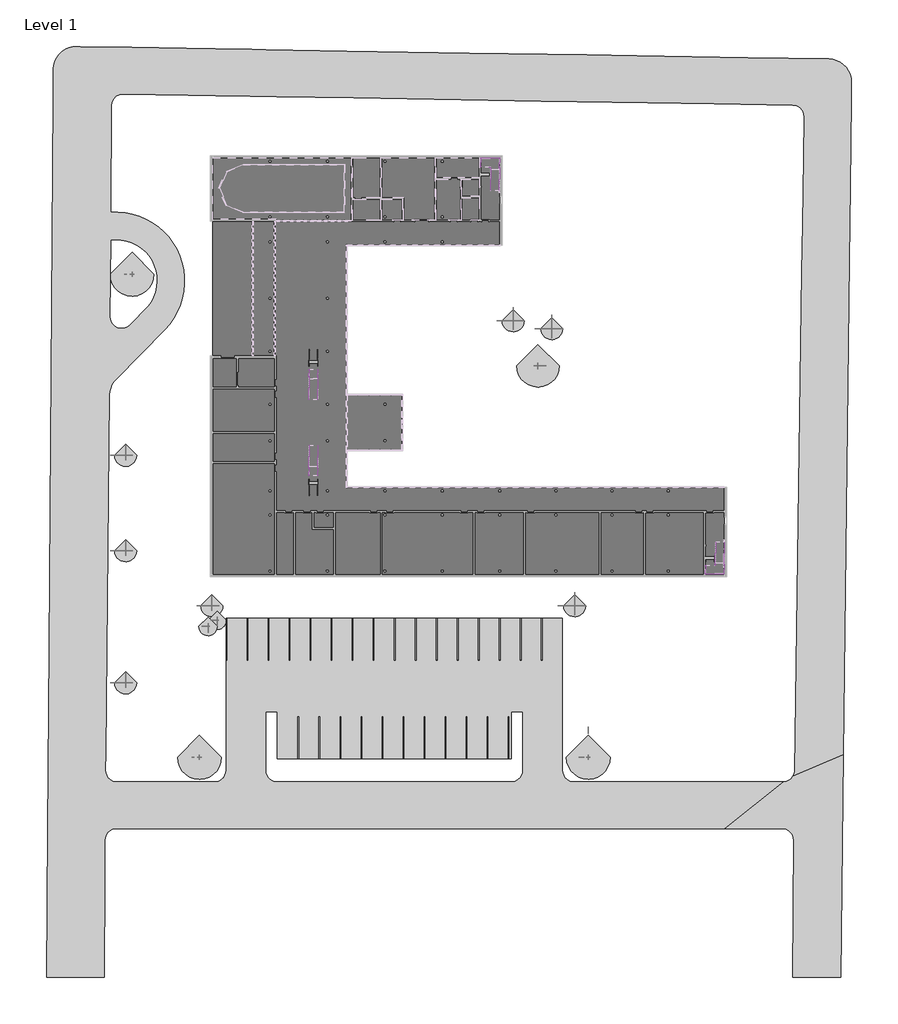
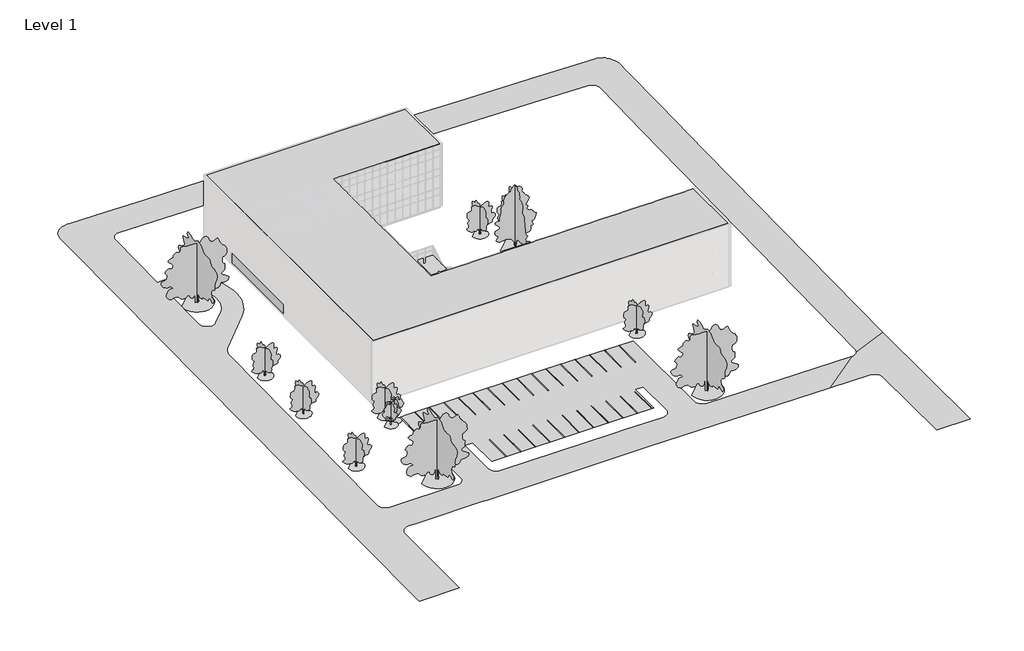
# One storey, part 27 of 27: 30 proxies, 28 members, 13 geographic elements.
"""IFC4 building model written with IfcOpenShell, lengths in millimetres."""

from ifc_helpers import new_model, si_unit, frame, origin, origin_with_axes, place, context, project, spatial, polyline, outline, extrude, faceted_brep, triangles, transform, mapped, element, save
from components import m_parking_space_5480_x_2740mm_90_deg_a793e569, m_rpc_tree_deciduous_american_beech_6_0_meters_be49fed4, m_rpc_tree_deciduous_japanese_cherry_4_5_meters_7aaeb41d, m_rpc_tree_deciduous_lombardy_poplar_12_2_meters_1b309f58, m_rpc_tree_deciduous_scarlet_oak_12_5_meters_13b38d7d

model = new_model("IFC4")

# Units and contexts
model_context = context("Model", 3, world=origin())
ifc_project = project(units=[si_unit("LENGTHUNIT", "METRE", prefix="MILLI")], contexts=[model_context])

# Site, building, storey
site = spatial("IfcSite", under=ifc_project)
building = spatial("IfcBuilding", under=site)
storey = spatial("IfcBuildingStorey", under=building, Name="Level 1", Elevation=0.0)

# Proxies
placement = place(None, origin())
element("IfcBuildingElementProxy", 1, Name="Building Element Proxy", at=placement, inside=storey, context=model_context, shape_type="Tessellation", body=[
    triangles([(70309.7548828, 43704.7137085, -503.1527547), (59746.7205688, 43879.5355957, -409.5406998), (45204.5570435, 44120.2092773, -278.9620967), (38757.531958, 44226.9097412, -221.9724431), (23364.4389771, 44481.6709351, -156.1477909), (7458.42556, 44744.915332, 0.0), (-3099.0088051, 44919.6442017, 0.0), (-4909.0805878, 44949.6005127, 0.0), (-9691.7927261, 45028.7538208, 0.0), (-13464.786264, 45091.2011719, 0.0), (-20574.5627563, 45208.8684082, 0.0), (-27271.6376953, 45319.7081543, 0.0), (-27739.5370422, 45327.4518677, 0.0), (-28264.1631592, 45290.0215942, 0.0), (-28774.1901672, 45161.5457153, 0.0), (-29253.9399536, 44945.9681763, 0.0), (-29688.6669067, 44649.9211304, 0.0), (-30065.011377, 44282.4970459, 0.0), (-30371.4019775, 43854.9975586, 0.0), (-30598.4230042, 43380.5567505, 0.0), (-30739.095813, 42873.755127, 0.0), (-30774.2820374, 42505.3404053, 0.0), (-30789.0997375, 42350.1824341, 0.0), (-30818.2607483, 38430.6216797, 0.0), (-31349.0702087, -32913.8142334, 0.0), (-31410.3827454, -41154.7298218, 0.0), (-31466.9560364, -48758.3494263, 0.0), (-31526.3942688, -56747.4710815, 0.0), (-31669.8878357, -76033.9217651, 0.0), (-24160.2671448, -76033.9217651, 0.0), (-24090.7853394, -62944.5904907, 0.0), (-24065.2287598, -58130.4099243, 0.0), (-24026.1078918, -57797.9371948, 0.0), (-23964.4744446, -57624.1291992, 0.0), (-23914.2263489, -57482.4262207, 0.0), (-23735.1558838, -57199.58302, 0.0), (-23497.8145569, -56963.4997559, 0.0), (-23214.0249023, -56785.9338501, 0.0), (-22897.9232666, -56675.7266235, 0.0), (-22565.2505493, -56638.3707642, 0.0), (-21189.1601257, -56638.3707642, 0.0), (-18714.6158203, -56638.3707642, 0.0), (-9198.8908356, -56638.3707642, 0.0), (-8594.8358459, -56638.3707642, 0.0), (-7828.2291504, -56638.3707642, 0.0), (21010.0826843, -56638.3707642, 0.0), (22698.8121643, -56638.3707642, 0.0), (56711.1151611, -56638.3707642, -334.7282604), (64236.9255615, -56638.3707642, -334.7282604), (64572.5050781, -56676.3916992, -334.0721231), (64891.0763306, -56788.5243896, -332.1369578), (65176.4821655, -56969.0808105, -329.020869), (65414.2630005, -57208.917334, -324.8818048), (65592.3591064, -57495.8672607, -319.9295998), (65701.7431274, -57815.3872925, -314.4152925), (65736.8712158, -58151.2830688, -308.6184443), (65582.9224731, -76033.9217651, 0.0), (71858.6882446, -76033.9217651, 0.0), (72207.6111328, -46972.9328247, -501.5343578), (72914.4470581, 11897.6051788, -595.5837407), (72981.5592407, 17486.9884277, -555.8220689), (73096.2220093, 27037.1194519, -545.4053719), (73231.3532959, 38291.881311, -535.7858282), (73259.8957397, 40669.1083008, -533.0508934), (73220.8237061, 41189.0672607, -532.0520082), (73092.3059692, 41694.4085083, -530.2807137), (72878.2306641, 42169.863208, -527.790495), (72585.0625122, 42601.0694458, -524.6566383), (72221.661438, 42975.0001099, -520.9737236), (71799.0035156, 43280.3582153, -516.8530812), (71329.8554077, 43507.9210693, -512.4191949), (70828.3883423, 43650.810022, -507.805959), (65844.943689, -49064.5493408, -435.8225258), (65789.1005859, -49448.423584, -434.7050795), (65636.6912842, -49805.1366943, -432.6774053), (65397.8965576, -50110.8436157, -429.875069), (65088.6968262, -50345.0897827, -426.4855594), (64729.7652466, -50492.2110352, -422.7355339), (64345.1050049, -50542.3707642, -418.8757768), (37077.7972778, -50542.3707642, -150.5276125), (36744.0176514, -50504.7637573, -147.2983764), (36426.9718872, -50393.8263428, -144.3423523), (36142.5636658, -50215.1163208, -141.8077414), (35905.0502563, -49977.6052368, -139.8216707), (35726.3448853, -49693.1946899, -138.4837074), (35615.4051453, -49376.1535767, -137.8609529), (35577.7981384, -49042.3692993, -137.9846372), (35577.7981384, -29206.3707642, -167.3300298), (18575.1115448, -29206.3707642, 0.0), (14497.9359924, -29206.3707642, 0.0), (-7039.9656372, -29206.3707642, 0.0), (-8262.2014984, -29206.3707642, 0.0), (-8262.2014984, -49042.3692993, 0.0), (-8299.809668, -49376.1535767, 0.0), (-8410.7482452, -49693.1946899, 0.0), (-8589.4541977, -49977.6052368, 0.0), (-8665.8786026, -50054.028479, 0.0), (-8826.9670258, -50215.1163208, 0.0), (-9111.3758286, -50393.8263428, 0.0), (-9428.4198486, -50504.7637573, 0.0), (-9455.9652603, -50507.8658936, 0.0), (-9762.2018005, -50542.3707642, 0.0), (-21961.0269653, -50542.3707642, 0.0), (-22489.1714722, -50542.3707642, 0.0), (-22825.1137573, -50504.2661133, 0.0), (-23143.9896423, -50391.896228, 0.0), (-23429.5977905, -50210.9584351, 0.0), (-23667.4274597, -49970.6568237, 0.0), (-23845.3979919, -49683.1953003, 0.0), (-23954.4657532, -49363.1729736, 0.0), (-23989.0915466, -49026.8539673, 0.0), (-23965.8278503, -46777.8191528, 0.0), (-23482.8736084, -89.4265001, 0.0), (-23435.7322998, 363.1888415, 0.0), (-23321.7694885, 803.7518847, 0.0), (-23143.5268799, 1222.4547432, 0.0), (-22904.9670227, 1609.9761475, 0.0), (-22611.4058716, 1957.6892258, 0.0), (-16262.7991974, 8428.9988754, 0.0), (-15636.7711304, 9137.9788559, 0.0), (-15088.4732025, 9908.6498383, 0.0), (-14623.9422546, 10732.5286194, 0.0), (-14248.2919281, 11600.5442413, 0.0), (-13965.658017, 12503.1414734, 0.0), (-13779.1507965, 13430.3848755, 0.0), (-13690.8247925, 14372.0646057, 0.0), (-13701.6508759, 15317.8173431, 0.0), (-13811.5116119, 16257.2297699, 0.0), (-14019.1954468, 17179.959494, 0.0), (-14322.4187988, 18075.8513214, 0.0), (-14717.8411743, 18935.0395752, 0.0), (-15201.1093506, 19748.0690186, 0.0), (-15766.9062103, 20505.9855469, 0.0), (-16409.0007385, 21200.4478088, 0.0), (-17120.3235992, 21823.812085, 0.0), (-17893.0473633, 22369.2160034, 0.0), (-18718.662085, 22830.6506287, 0.0), (-19588.0811096, 23203.0418518, 0.0), (-20491.7329285, 23482.2875977, 0.0), (-21419.6693115, 23665.3136353, 0.0), (-22361.6746033, 23750.1084595, 0.0), (-23307.3796692, 23735.7325928, 0.0), (-23203.9185425, 37641.6768127, 0.0), (-23163.3768311, 37977.0679688, 0.0), (-23048.8094055, 38294.8811279, 0.0), (-22866.0228882, 38578.9940186, 0.0), (-22624.2911316, 38814.9958923, 0.0), (-22335.8738525, 38990.915387, 0.0), (-22015.4050415, 39097.8274658, 0.0), (-21679.1371948, 39130.3092041, 0.0), (-13208.9460663, 38990.1293884, 0.0), (-9625.997905, 38930.8306824, 0.0), (-5084.1908295, 38855.6655029, 0.0), (-1645.9585442, 38798.7619995, 0.0), (8377.2142456, 38632.8791016, 0.0), (32875.1398499, 38227.4364075, -240.4937689), (46729.6360474, 37998.1434265, -299.7389899), (55435.3325684, 37854.0638489, -376.6945579), (65630.1847046, 37685.3392639, -468.2372987), (65962.9318359, 37642.302356, -471.261242), (66277.7870361, 37526.3815247, -474.1950019), (66559.0024292, 37343.376416, -476.8917123), (66792.4998047, 37102.4422852, -479.216534), (66966.6054565, 36815.6318848, -481.0531225), (67072.6082886, 36497.2978271, -482.3095865), (67105.1969971, 36163.3670471, -482.9230665), (67025.2297852, 30755.4808594, -487.4104743), (66899.3025879, 22239.1774292, -496.4906977), (66805.7827148, 15914.661145, -541.4088498), (-1581.9995121, -47494.3707642, 0.0), (18839.3663452, -47494.3707642, 0.0), (21324.2449036, -47494.3707642, 0.0), (28897.5965881, -47494.3707642, -74.5322966), (28897.5965881, -41398.3707642, -83.5507232), (30421.5965881, -41398.3707642, -98.5489992), (30421.5965881, -49042.3692993, -87.2404598), (30383.9895813, -49376.1535767, -86.3765409), (30273.0498413, -49693.1946899, -84.8157168), (30094.3444702, -49977.6052368, -82.6362441), (29856.8310608, -50215.1163208, -79.9474184), (29572.4228394, -50393.8263428, -76.8840607), (29255.3770752, -50504.7637573, -73.5997817), (28921.5974487, -50542.3707642, -70.2592743), (21782.4332153, -50542.3707642, 0.0), (19562.9384583, -50542.3707642, 0.0), (-1605.9993553, -50542.3707642, 0.0), (-1939.7807259, -50504.7637573, 0.0), (-2256.8250366, -50393.8263428, 0.0), (-2541.2341301, -50215.1163208, 0.0), (-2778.7466675, -49977.6052368, 0.0), (-2957.4526199, -49693.1946899, 0.0), (-3068.3911972, -49376.1535767, 0.0), (-3105.9993668, -49042.3692993, 0.0), (-3105.9993668, -41398.3707642, 0.0), (-1581.9995121, -41398.3707642, 0.0), (-23329.5411072, 20062.4428528, 0.0), (-22621.2355042, 20122.8182373, 0.0), (-21911.2137268, 20088.0784973, 0.0), (-21212.1866272, 19958.8398743, 0.0), (-20536.6766968, 19737.4208313, 0.0), (-19896.7808716, 19427.7839172, 0.0), (-19303.9589172, 19035.4776306, 0.0), (-18768.829953, 18567.527124, 0.0), (-18300.9771149, 18032.3132813, 0.0), (-17908.7801239, 17439.420401, 0.0), (-17599.2606445, 16799.4687653, 0.0), (-17377.9648499, 16123.9181396, 0.0), (-17248.854126, 15424.8677856, 0.0), (-17214.2422852, 14714.8378693, 0.0), (-17274.7478943, 14006.5438934, 0.0), (-17429.2872986, 13312.6722931, 0.0), (-17675.0943878, 12645.649054, 0.0), (-18007.7659424, 12017.4211212, 0.0), (-18421.3430237, 11439.2389709, 0.0), (-20791.7983337, 9022.9684341, 0.0), (-21073.2044128, 8797.119429, 0.0), (-21399.8193604, 8643.7590225, 0.0), (-21753.3349915, 8571.483783, 0.0), (-22113.9339111, 8584.3452072, 0.0), (-22461.4010742, 8681.6229904, 0.0), (-22776.2609253, 8857.8639771, 0.0), (-23040.8610535, 9103.1879562, 0.0), (-23240.3698059, 9403.8428604, 0.0), (-23363.6018188, 9742.9750671, 0.0), (-23403.6505371, 10101.5741089, 0.0)], [[29, 30, 31], [29, 31, 28], [28, 32, 33], [32, 28, 31], [33, 34, 28], [28, 34, 35], [36, 37, 108], [36, 108, 28], [108, 37, 107], [38, 106, 107], [106, 38, 39], [37, 38, 107], [36, 28, 35], [28, 108, 27], [110, 111, 27], [109, 110, 27], [26, 27, 112], [25, 112, 113], [112, 25, 26], [27, 111, 112], [109, 27, 108], [114, 115, 224], [113, 114, 225], [225, 114, 224], [223, 116, 117], [223, 224, 115], [116, 223, 115], [25, 113, 24], [24, 113, 225], [105, 39, 40], [104, 40, 103], [105, 40, 104], [117, 118, 222], [118, 219, 220], [221, 118, 220], [223, 117, 222], [103, 41, 42], [41, 103, 40], [219, 118, 218], [216, 118, 119], [217, 218, 118], [118, 216, 217], [216, 119, 215], [212, 213, 122], [214, 121, 213], [119, 214, 215], [221, 222, 118], [121, 122, 213], [122, 123, 212], [211, 123, 124], [211, 212, 123], [211, 124, 210], [210, 124, 125], [121, 214, 120], [120, 214, 119], [105, 106, 39], [142, 143, 24], [196, 142, 24], [24, 144, 145], [144, 24, 143], [24, 145, 23], [146, 23, 145], [142, 196, 197], [196, 24, 225], [140, 198, 139], [197, 198, 141], [141, 198, 140], [12, 146, 147], [141, 142, 197], [12, 147, 148], [22, 20, 21], [16, 17, 22], [20, 22, 19], [18, 19, 22], [17, 18, 22], [22, 23, 13], [23, 12, 13], [23, 146, 12], [149, 11, 148], [16, 22, 15], [22, 14, 15], [13, 14, 22], [149, 150, 11], [12, 148, 11], [139, 198, 199], [207, 208, 128], [133, 203, 204], [205, 206, 131], [132, 204, 205], [207, 129, 206], [209, 126, 127], [126, 209, 210], [127, 128, 208], [206, 130, 131], [130, 206, 129], [129, 207, 128], [127, 208, 209], [210, 125, 126], [131, 132, 205], [137, 201, 136], [200, 201, 137], [11, 150, 151], [139, 199, 138], [200, 137, 138], [201, 202, 136], [199, 200, 138], [203, 134, 202], [134, 135, 202], [136, 202, 135], [10, 151, 9], [10, 11, 151], [203, 133, 134], [204, 132, 133], [103, 42, 102], [100, 43, 44], [99, 100, 44], [102, 43, 101], [188, 45, 187], [100, 101, 43], [44, 45, 99], [45, 186, 187], [43, 102, 42], [185, 186, 46], [46, 186, 45], [184, 46, 47], [185, 46, 184], [182, 183, 47], [47, 183, 184], [182, 82, 181], [99, 45, 98], [98, 45, 97], [95, 96, 190], [93, 94, 192], [95, 191, 94], [97, 190, 96], [45, 189, 190], [45, 188, 189], [191, 192, 94], [191, 95, 190], [193, 93, 192], [180, 181, 83], [190, 97, 45], [81, 182, 47], [79, 50, 78], [49, 50, 79], [80, 47, 48], [48, 79, 80], [79, 48, 49], [81, 47, 80], [78, 50, 51], [57, 58, 56], [55, 59, 54], [77, 51, 52], [59, 75, 53], [76, 52, 53], [54, 59, 53], [182, 81, 82], [55, 56, 59], [180, 84, 179], [180, 83, 84], [179, 84, 85], [177, 178, 86], [85, 86, 178], [178, 179, 85], [87, 177, 86], [77, 78, 51], [75, 76, 53], [59, 73, 74], [74, 75, 59], [77, 52, 76], [82, 83, 181], [56, 58, 59], [170, 171, 195], [91, 92, 194], [194, 195, 91], [93, 194, 92], [195, 90, 91], [90, 195, 171], [194, 93, 193], [175, 176, 87], [172, 174, 89], [172, 173, 174], [175, 88, 174], [88, 175, 87], [172, 89, 171], [177, 87, 176], [89, 174, 88], [8, 152, 153], [7, 153, 154], [8, 9, 152], [6, 7, 154], [8, 153, 7], [154, 155, 6], [9, 151, 152], [89, 90, 171], [155, 5, 6], [155, 156, 5], [5, 156, 4], [4, 157, 3], [4, 156, 157], [168, 169, 61], [160, 161, 1], [162, 163, 64], [161, 162, 1], [163, 164, 63], [62, 168, 61], [61, 169, 60], [165, 166, 63], [167, 63, 166], [168, 62, 167], [164, 165, 63], [63, 167, 62], [3, 158, 2], [2, 158, 159], [2, 159, 1], [66, 71, 72], [72, 1, 65], [159, 160, 1], [158, 3, 157], [66, 72, 65], [64, 65, 1], [66, 67, 71], [69, 70, 68], [67, 68, 70], [71, 67, 70], [162, 64, 1], [163, 63, 64], [60, 169, 73], [59, 60, 73]], closed=False),
])
m_parking_space_5480_x_2740mm_90_deg_shape = m_parking_space_5480_x_2740mm_90_deg_a793e569(model_context)
element("IfcBuildingElementProxy", 2, Name="M_Parking Space : 5480 x 2740mm - 90 deg", ObjectType="M_Parking Space : 5480 x 2740mm - 90 deg", at=placement, inside=storey, context=model_context, shape_type="MappedRepresentation", body=[
    mapped(m_parking_space_5480_x_2740mm_90_deg_shape, transform((-8211.3704002, -29206.3707642, 0.7803686), x_axis=(1.0, 0.0, 0.0), y_axis=(0.0, 1.0, 0.0), z_axis=(0.0, 0.0, 1.0))),
])
element("IfcBuildingElementProxy", 3, Name="M_Parking Space : 5480 x 2740mm - 90 deg", ObjectType="M_Parking Space : 5480 x 2740mm - 90 deg", at=placement, inside=storey, context=model_context, shape_type="MappedRepresentation", body=[
    mapped(m_parking_space_5480_x_2740mm_90_deg_shape, transform((-5471.4012928, -29206.3707642, 0.7803686), x_axis=(1.0, 0.0, 0.0), y_axis=(0.0, 1.0, 0.0), z_axis=(0.0, 0.0, 1.0))),
])
element("IfcBuildingElementProxy", 4, Name="M_Parking Space : 5480 x 2740mm - 90 deg", ObjectType="M_Parking Space : 5480 x 2740mm - 90 deg", at=placement, inside=storey, context=model_context, shape_type="MappedRepresentation", body=[
    mapped(m_parking_space_5480_x_2740mm_90_deg_shape, transform((-2731.4321855, -29206.3707642, 0.7803686), x_axis=(1.0, 0.0, 0.0), y_axis=(0.0, 1.0, 0.0), z_axis=(0.0, 0.0, 1.0))),
])
element("IfcBuildingElementProxy", 5, Name="M_Parking Space : 5480 x 2740mm - 90 deg", ObjectType="M_Parking Space : 5480 x 2740mm - 90 deg", at=placement, inside=storey, context=model_context, shape_type="MappedRepresentation", body=[
    mapped(m_parking_space_5480_x_2740mm_90_deg_shape, transform((8.5369219, -29206.3707642, 0.7803686), x_axis=(1.0, 0.0, 0.0), y_axis=(0.0, 1.0, 0.0), z_axis=(0.0, 0.0, 1.0))),
])
element("IfcBuildingElementProxy", 6, Name="M_Parking Space : 5480 x 2740mm - 90 deg", ObjectType="M_Parking Space : 5480 x 2740mm - 90 deg", at=placement, inside=storey, context=model_context, shape_type="MappedRepresentation", body=[
    mapped(m_parking_space_5480_x_2740mm_90_deg_shape, transform((2748.5060292, -29206.3707642, 0.7803686), x_axis=(1.0, 0.0, 0.0), y_axis=(0.0, 1.0, 0.0), z_axis=(0.0, 0.0, 1.0))),
])
element("IfcBuildingElementProxy", 7, Name="M_Parking Space : 5480 x 2740mm - 90 deg", ObjectType="M_Parking Space : 5480 x 2740mm - 90 deg", at=placement, inside=storey, context=model_context, shape_type="MappedRepresentation", body=[
    mapped(m_parking_space_5480_x_2740mm_90_deg_shape, transform((5488.4751366, -29206.3707642, 0.7803686), x_axis=(1.0, 0.0, 0.0), y_axis=(0.0, 1.0, 0.0), z_axis=(0.0, 0.0, 1.0))),
])
element("IfcBuildingElementProxy", 8, Name="M_Parking Space : 5480 x 2740mm - 90 deg", ObjectType="M_Parking Space : 5480 x 2740mm - 90 deg", at=placement, inside=storey, context=model_context, shape_type="MappedRepresentation", body=[
    mapped(m_parking_space_5480_x_2740mm_90_deg_shape, transform((8228.4442439, -29206.3707642, 0.7803686), x_axis=(1.0, 0.0, 0.0), y_axis=(0.0, 1.0, 0.0), z_axis=(0.0, 0.0, 1.0))),
])
element("IfcBuildingElementProxy", 9, Name="M_Parking Space : 5480 x 2740mm - 90 deg", ObjectType="M_Parking Space : 5480 x 2740mm - 90 deg", at=placement, inside=storey, context=model_context, shape_type="MappedRepresentation", body=[
    mapped(m_parking_space_5480_x_2740mm_90_deg_shape, transform((10968.4133512, -29206.3707642, 0.7803686), x_axis=(1.0, 0.0, 0.0), y_axis=(0.0, 1.0, 0.0), z_axis=(0.0, 0.0, 1.0))),
])
element("IfcBuildingElementProxy", 10, Name="M_Parking Space : 5480 x 2740mm - 90 deg", ObjectType="M_Parking Space : 5480 x 2740mm - 90 deg", at=placement, inside=storey, context=model_context, shape_type="MappedRepresentation", body=[
    mapped(m_parking_space_5480_x_2740mm_90_deg_shape, transform((13708.3824586, -29206.3707642, 0.7803686), x_axis=(1.0, 0.0, 0.0), y_axis=(0.0, 1.0, 0.0), z_axis=(0.0, 0.0, 1.0))),
])
element("IfcBuildingElementProxy", 11, Name="M_Parking Space : 5480 x 2740mm - 90 deg", ObjectType="M_Parking Space : 5480 x 2740mm - 90 deg", at=placement, inside=storey, context=model_context, shape_type="MappedRepresentation", body=[
    mapped(m_parking_space_5480_x_2740mm_90_deg_shape, transform((16448.3515659, -29206.3707642, 0.7254434), x_axis=(1.0, 0.0, 0.0), y_axis=(0.0, 1.0, 0.0), z_axis=(0.0, 0.0, 1.0))),
])
element("IfcBuildingElementProxy", 12, Name="M_Parking Space : 5480 x 2740mm - 90 deg", ObjectType="M_Parking Space : 5480 x 2740mm - 90 deg", at=placement, inside=storey, context=model_context, shape_type="MappedRepresentation", body=[
    mapped(m_parking_space_5480_x_2740mm_90_deg_shape, transform((19188.3206733, -29206.3707642, -5.2310848), x_axis=(0.9999560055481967, 0.0, -0.009380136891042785), y_axis=(-1.1675017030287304e-05, 0.9999992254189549, -0.0012445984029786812), z_axis=(0.009380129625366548, 0.0012446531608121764, 0.9999552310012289))),
])
element("IfcBuildingElementProxy", 13, Name="M_Parking Space : 5480 x 2740mm - 90 deg", ObjectType="M_Parking Space : 5480 x 2740mm - 90 deg", at=placement, inside=storey, context=model_context, shape_type="MappedRepresentation", body=[
    mapped(m_parking_space_5480_x_2740mm_90_deg_shape, transform((21928.2897806, -29206.3707642, -32.2196013), x_axis=(0.9999515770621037, 0.0, -0.0098409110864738), y_axis=(-1.4557933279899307e-05, 0.9999989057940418, -0.0014792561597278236), z_axis=(0.009840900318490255, 0.0014793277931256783, 0.99995048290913))),
])
element("IfcBuildingElementProxy", 14, Name="M_Parking Space : 5480 x 2740mm - 90 deg", ObjectType="M_Parking Space : 5480 x 2740mm - 90 deg", at=placement, inside=storey, context=model_context, shape_type="MappedRepresentation", body=[
    mapped(m_parking_space_5480_x_2740mm_90_deg_shape, transform((24668.258888, -29206.3707642, -59.1846994), x_axis=(0.9999515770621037, 0.0, -0.009840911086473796), y_axis=(-1.4557933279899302e-05, 0.9999989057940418, -0.0014792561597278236), z_axis=(0.009840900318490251, 0.0014793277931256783, 0.99995048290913))),
])
element("IfcBuildingElementProxy", 15, Name="M_Parking Space : 5480 x 2740mm - 90 deg", ObjectType="M_Parking Space : 5480 x 2740mm - 90 deg", at=placement, inside=storey, context=model_context, shape_type="MappedRepresentation", body=[
    mapped(m_parking_space_5480_x_2740mm_90_deg_shape, transform((27408.2279953, -29206.3707642, -86.1497975), x_axis=(0.9999515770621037, 0.0, -0.0098409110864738), y_axis=(-1.4557933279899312e-05, 0.9999989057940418, -0.001479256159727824), z_axis=(0.009840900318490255, 0.0014793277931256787, 0.99995048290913))),
])
element("IfcBuildingElementProxy", 16, Name="M_Parking Space : 5480 x 2740mm - 90 deg", ObjectType="M_Parking Space : 5480 x 2740mm - 90 deg", at=placement, inside=storey, context=model_context, shape_type="MappedRepresentation", body=[
    mapped(m_parking_space_5480_x_2740mm_90_deg_shape, transform((30148.1971027, -29206.3707642, -113.1148956), x_axis=(0.9999515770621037, 0.0, -0.009840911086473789), y_axis=(-1.4557933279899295e-05, 0.9999989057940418, -0.001479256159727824), z_axis=(0.009840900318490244, 0.0014793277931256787, 0.99995048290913))),
])
element("IfcBuildingElementProxy", 17, Name="M_Parking Space : 5480 x 2740mm - 90 deg", ObjectType="M_Parking Space : 5480 x 2740mm - 90 deg", at=placement, inside=storey, context=model_context, shape_type="MappedRepresentation", body=[
    mapped(m_parking_space_5480_x_2740mm_90_deg_shape, transform((32888.16621, -29206.3707642, -140.0799937), x_axis=(0.9999515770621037, 0.0, -0.009840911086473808), y_axis=(-1.4557933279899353e-05, 0.9999989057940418, -0.0014792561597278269), z_axis=(0.009840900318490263, 0.0014793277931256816, 0.99995048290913))),
])
element("IfcBuildingElementProxy", 18, Name="M_Parking Space : 5480 x 2740mm - 90 deg", ObjectType="M_Parking Space : 5480 x 2740mm - 90 deg", at=placement, inside=storey, context=model_context, shape_type="MappedRepresentation", body=[
    mapped(m_parking_space_5480_x_2740mm_90_deg_shape, transform((28558.0005584, -47494.3704098, -70.4098691), x_axis=(-0.9999515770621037, 0.0, 0.009840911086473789), y_axis=(1.4557933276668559e-05, -0.9999989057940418, 0.0014792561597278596), z_axis=(0.00984090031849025, 0.0014793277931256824, 0.99995048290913))),
])
element("IfcBuildingElementProxy", 19, Name="M_Parking Space : 5480 x 2740mm - 90 deg", ObjectType="M_Parking Space : 5480 x 2740mm - 90 deg", at=placement, inside=storey, context=model_context, shape_type="MappedRepresentation", body=[
    mapped(m_parking_space_5480_x_2740mm_90_deg_shape, transform((25818.031746, -47494.3704098, -43.444774), x_axis=(-0.9999515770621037, 0.0, 0.009840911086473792), y_axis=(1.455793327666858e-05, -0.9999989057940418, 0.0014792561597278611), z_axis=(0.009840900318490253, 0.001479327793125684, 0.99995048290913))),
])
element("IfcBuildingElementProxy", 20, Name="M_Parking Space : 5480 x 2740mm - 90 deg", ObjectType="M_Parking Space : 5480 x 2740mm - 90 deg", at=placement, inside=storey, context=model_context, shape_type="MappedRepresentation", body=[
    mapped(m_parking_space_5480_x_2740mm_90_deg_shape, transform((23078.0629336, -47494.3704098, -16.4796788), x_axis=(-0.9999515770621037, 0.0, 0.009840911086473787), y_axis=(1.4557933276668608e-05, -0.9999989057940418, 0.0014792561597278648), z_axis=(0.009840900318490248, 0.0014793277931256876, 0.99995048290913))),
])
element("IfcBuildingElementProxy", 21, Name="M_Parking Space : 5480 x 2740mm - 90 deg", ObjectType="M_Parking Space : 5480 x 2740mm - 90 deg", at=placement, inside=storey, context=model_context, shape_type="MappedRepresentation", body=[
    mapped(m_parking_space_5480_x_2740mm_90_deg_shape, transform((20338.0941212, -47494.3704098, 0.5399922), x_axis=(-0.9999888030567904, 0.0, 0.004732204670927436), y_axis=(3.5003760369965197e-06, -0.9999997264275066, 0.0007396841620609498), z_axis=(0.004732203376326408, 0.0007396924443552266, 0.9999885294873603))),
])
element("IfcBuildingElementProxy", 22, Name="M_Parking Space : 5480 x 2740mm - 90 deg", ObjectType="M_Parking Space : 5480 x 2740mm - 90 deg", at=placement, inside=storey, context=model_context, shape_type="MappedRepresentation", body=[
    mapped(m_parking_space_5480_x_2740mm_90_deg_shape, transform((17598.1253087, -47494.3704098, 0.7803686), x_axis=(-1.0, 0.0, 0.0), y_axis=(0.0, -1.0, 0.0), z_axis=(0.0, 0.0, 1.0))),
])
element("IfcBuildingElementProxy", 23, Name="M_Parking Space : 5480 x 2740mm - 90 deg", ObjectType="M_Parking Space : 5480 x 2740mm - 90 deg", at=placement, inside=storey, context=model_context, shape_type="MappedRepresentation", body=[
    mapped(m_parking_space_5480_x_2740mm_90_deg_shape, transform((14858.1564963, -47494.3704098, 0.7803686), x_axis=(-1.0, 0.0, 0.0), y_axis=(0.0, -1.0, 0.0), z_axis=(0.0, 0.0, 1.0))),
])
element("IfcBuildingElementProxy", 24, Name="M_Parking Space : 5480 x 2740mm - 90 deg", ObjectType="M_Parking Space : 5480 x 2740mm - 90 deg", at=placement, inside=storey, context=model_context, shape_type="MappedRepresentation", body=[
    mapped(m_parking_space_5480_x_2740mm_90_deg_shape, transform((12118.1876839, -47494.3704098, 0.7803686), x_axis=(-1.0, 0.0, 0.0), y_axis=(0.0, -1.0, 0.0), z_axis=(0.0, 0.0, 1.0))),
])
element("IfcBuildingElementProxy", 25, Name="M_Parking Space : 5480 x 2740mm - 90 deg", ObjectType="M_Parking Space : 5480 x 2740mm - 90 deg", at=placement, inside=storey, context=model_context, shape_type="MappedRepresentation", body=[
    mapped(m_parking_space_5480_x_2740mm_90_deg_shape, transform((9378.2188715, -47494.3704098, 0.7803686), x_axis=(-1.0, 0.0, 0.0), y_axis=(0.0, -1.0, 0.0), z_axis=(0.0, 0.0, 1.0))),
])
element("IfcBuildingElementProxy", 26, Name="M_Parking Space : 5480 x 2740mm - 90 deg", ObjectType="M_Parking Space : 5480 x 2740mm - 90 deg", at=placement, inside=storey, context=model_context, shape_type="MappedRepresentation", body=[
    mapped(m_parking_space_5480_x_2740mm_90_deg_shape, transform((6638.2500591, -47494.3704098, 0.7803686), x_axis=(-1.0, 0.0, 0.0), y_axis=(0.0, -1.0, 0.0), z_axis=(0.0, 0.0, 1.0))),
])
element("IfcBuildingElementProxy", 27, Name="M_Parking Space : 5480 x 2740mm - 90 deg", ObjectType="M_Parking Space : 5480 x 2740mm - 90 deg", at=placement, inside=storey, context=model_context, shape_type="MappedRepresentation", body=[
    mapped(m_parking_space_5480_x_2740mm_90_deg_shape, transform((3898.2812467, -47494.3704098, 0.7803686), x_axis=(-1.0, 0.0, 0.0), y_axis=(0.0, -1.0, 0.0), z_axis=(0.0, 0.0, 1.0))),
])
element("IfcBuildingElementProxy", 28, Name="M_Parking Space : 5480 x 2740mm - 90 deg", ObjectType="M_Parking Space : 5480 x 2740mm - 90 deg", at=placement, inside=storey, context=model_context, shape_type="MappedRepresentation", body=[
    mapped(m_parking_space_5480_x_2740mm_90_deg_shape, transform((1158.3124343, -47494.3704098, 0.7803686), x_axis=(-1.0, 0.0, 0.0), y_axis=(0.0, -1.0, 0.0), z_axis=(0.0, 0.0, 1.0))),
])
element("IfcBuildingElementProxy", 29, Name="Main Building : Main Building", ObjectType="Main Building : Main Building", at=placement, inside=storey, context=model_context, shape_type="SweptSolid", body=[
    extrude(outline(polyline([(27411.8999097, 30818.5799804), (27411.8999097, 19414.8392059), (7447.5010724, 19414.8392059), (7447.5010724, -12132.3615692), (56699.1173382, -12132.3615692), (56699.1173382, -23510.7006057), (-10026.8386635, -23510.7006057), (-10026.8386635, 30818.5799804), (27411.8999097, 30818.5799804)])), origin_with_axes(), (0.0, 0.0, 1.0), 12400.0),
])
element("IfcBuildingElementProxy", 30, Name="Pavillion : Pavillion", ObjectType="Pavillion : Pavillion", at=placement, inside=storey, context=model_context, shape_type="SweptSolid", body=[
    extrude(outline(polyline([(14709.0902051, -89.4607941), (14709.0902051, -7283.8611817), (7447.5010724, -7283.8611817), (7447.5010724, -89.4607941), (14709.0902051, -89.4607941)])), origin_with_axes(), (0.0, 0.0, 1.0), 6600.0),
])

# Geographic elements
m_rpc_tree_deciduous_american_beech_6_0_meters_shape = m_rpc_tree_deciduous_american_beech_6_0_meters_be49fed4(model_context)
element("IfcGeographicElement", 31, ObjectType="M_RPC Tree - Deciduous : American Beech - 6.0 Meters", at=placement, inside=storey, context=model_context, shape_type="MappedRepresentation", body=[
    mapped(m_rpc_tree_deciduous_american_beech_6_0_meters_shape, transform((34188.8932364, 8562.754829, -209.5369666), x_axis=(1.0, 0.0, 0.0), y_axis=(0.0, 1.0, 0.0), z_axis=(0.0, 0.0, 1.0))),
])
element("IfcGeographicElement", 32, ObjectType="M_RPC Tree - Deciduous : American Beech - 6.0 Meters", at=placement, inside=storey, context=model_context, shape_type="MappedRepresentation", body=[
    mapped(m_rpc_tree_deciduous_american_beech_6_0_meters_shape, transform((-21369.8074033, -37622.5453961, 0.0), x_axis=(1.0, 0.0, 0.0), y_axis=(0.0, 1.0, 0.0), z_axis=(0.0, 0.0, 1.0))),
])
element("IfcGeographicElement", 33, ObjectType="M_RPC Tree - Deciduous : American Beech - 6.0 Meters", at=placement, inside=storey, context=model_context, shape_type="MappedRepresentation", body=[
    mapped(m_rpc_tree_deciduous_american_beech_6_0_meters_shape, transform((-21369.8074033, -20409.5737255, 0.0), x_axis=(1.0, 0.0, 0.0), y_axis=(0.0, 1.0, 0.0), z_axis=(0.0, 0.0, 1.0))),
])
element("IfcGeographicElement", 34, ObjectType="M_RPC Tree - Deciduous : American Beech - 6.0 Meters", at=placement, inside=storey, context=model_context, shape_type="MappedRepresentation", body=[
    mapped(m_rpc_tree_deciduous_american_beech_6_0_meters_shape, transform((-21369.8074033, -7968.5149933, 0.0), x_axis=(1.0, 0.0, 0.0), y_axis=(0.0, 1.0, 0.0), z_axis=(0.0, 0.0, 1.0))),
])
element("IfcGeographicElement", 35, ObjectType="M_RPC Tree - Deciduous : American Beech - 6.0 Meters", at=placement, inside=storey, context=model_context, shape_type="MappedRepresentation", body=[
    mapped(m_rpc_tree_deciduous_american_beech_6_0_meters_shape, transform((-10121.7269057, -27567.443133, 0.0), x_axis=(1.0, 0.0, 0.0), y_axis=(0.0, 1.0, 0.0), z_axis=(0.0, 0.0, 1.0))),
])
element("IfcGeographicElement", 36, ObjectType="M_RPC Tree - Deciduous : American Beech - 6.0 Meters", at=placement, inside=storey, context=model_context, shape_type="MappedRepresentation", body=[
    mapped(m_rpc_tree_deciduous_american_beech_6_0_meters_shape, transform((37171.3388229, -27567.443133, -185.4373169), x_axis=(1.0, 0.0, 0.0), y_axis=(0.0, 1.0, 0.0), z_axis=(0.0, 0.0, 1.0))),
])
element("IfcGeographicElement", 37, ObjectType="M_RPC Tree - Deciduous : American Beech - 6.0 Meters", at=placement, inside=storey, context=model_context, shape_type="MappedRepresentation", body=[
    mapped(m_rpc_tree_deciduous_american_beech_6_0_meters_shape, transform((29161.3421049, 9585.3076015, -161.5716527), x_axis=(1.0, 0.0, 0.0), y_axis=(0.0, 1.0, 0.0), z_axis=(0.0, 0.0, 1.0))),
])
m_rpc_tree_deciduous_japanese_cherry_4_5_meters_shape = m_rpc_tree_deciduous_japanese_cherry_4_5_meters_7aaeb41d(model_context)
element("IfcGeographicElement", 38, ObjectType="M_RPC Tree - Deciduous : Japanese Cherry - 4.5 Meters", at=placement, inside=storey, context=model_context, shape_type="MappedRepresentation", body=[
    mapped(m_rpc_tree_deciduous_japanese_cherry_4_5_meters_shape, transform((-10610.2166919, -30274.1375785, 0.0), x_axis=(1.0, 0.0, 0.0), y_axis=(0.0, 1.0, 0.0), z_axis=(0.0, 0.0, 1.0))),
])
element("IfcGeographicElement", 39, ObjectType="M_RPC Tree - Deciduous : Japanese Cherry - 4.5 Meters", at=placement, inside=storey, context=model_context, shape_type="MappedRepresentation", body=[
    mapped(m_rpc_tree_deciduous_japanese_cherry_4_5_meters_shape, transform((-9420.9461982, -29474.7859552, 0.0), x_axis=(1.0, 0.0, 0.0), y_axis=(0.0, 1.0, 0.0), z_axis=(0.0, 0.0, 1.0))),
])
m_rpc_tree_deciduous_lombardy_poplar_12_2_meters_shape = m_rpc_tree_deciduous_lombardy_poplar_12_2_meters_1b309f58(model_context)
element("IfcGeographicElement", 40, ObjectType="M_RPC Tree - Deciduous : Lombardy Poplar - 12.2 Meters", at=placement, inside=storey, context=model_context, shape_type="MappedRepresentation", body=[
    mapped(m_rpc_tree_deciduous_lombardy_poplar_12_2_meters_shape, transform((32399.4258845, 3705.6291595, -184.7404879), x_axis=(1.0, 0.0, 0.0), y_axis=(0.0, 1.0, 0.0), z_axis=(0.0, 0.0, 1.0))),
])
m_rpc_tree_deciduous_scarlet_oak_12_5_meters_shape = m_rpc_tree_deciduous_scarlet_oak_12_5_meters_13b38d7d(model_context)
element("IfcGeographicElement", 41, ObjectType="M_RPC Tree - Deciduous : Scarlet Oak - 12.5 Meters", at=placement, inside=storey, context=model_context, shape_type="MappedRepresentation", body=[
    mapped(m_rpc_tree_deciduous_scarlet_oak_12_5_meters_shape, transform((38960.8061748, -47336.7967349, -173.8013564), x_axis=(1.0, 0.0, 0.0), y_axis=(0.0, 1.0, 0.0), z_axis=(0.0, 0.0, 1.0))),
])
element("IfcGeographicElement", 42, ObjectType="M_RPC Tree - Deciduous : Scarlet Oak - 12.5 Meters", at=placement, inside=storey, context=model_context, shape_type="MappedRepresentation", body=[
    mapped(m_rpc_tree_deciduous_scarlet_oak_12_5_meters_shape, transform((-11740.7687955, -47336.7967349, 0.0), x_axis=(1.0, 0.0, 0.0), y_axis=(0.0, 1.0, 0.0), z_axis=(0.0, 0.0, 1.0))),
])
element("IfcGeographicElement", 43, ObjectType="M_RPC Tree - Deciduous : Scarlet Oak - 12.5 Meters", at=placement, inside=storey, context=model_context, shape_type="MappedRepresentation", body=[
    mapped(m_rpc_tree_deciduous_scarlet_oak_12_5_meters_shape, transform((-20517.6800928, 15635.4115055, 0.0), x_axis=(1.0, 0.0, 0.0), y_axis=(0.0, 1.0, 0.0), z_axis=(0.0, 0.0, 1.0))),
])

# Members
element("IfcMember", 44, ObjectType="Stringer - 50mm Width", at=placement, inside=storey, context=model_context, shape_type="SweptSolid", body=[
    extrude(outline(polyline([(6000.5392059, 214.6805108), (6000.5392059, 0.0), (5590.2907134, 0.0), (3126.6770165, 1547.393727), (3241.8773748, 1947.393727), (6000.5392059, 214.6805108)])), frame((3668.6567657, 0.0, 0.0), z_axis=(1.0, 0.0, 0.0), x_axis=(0.0, 1.0, 0.0)), (0.0, 0.0, 1.0), 50.0),
])
element("IfcMember", 45, ObjectType="Stringer - 50mm Width", at=placement, inside=storey, context=model_context, shape_type="SweptSolid", body=[
    extrude(outline(polyline([(6000.5392059, 214.6805108), (6000.5392059, 0.0), (5590.2907134, 0.0), (3126.6770165, 1547.393727), (3241.8773748, 1947.393727), (6000.5392059, 214.6805108)])), frame((2518.6567657, 0.0, 0.0), z_axis=(1.0, 0.0, 0.0), x_axis=(0.0, 1.0, 0.0)), (0.0, 0.0, 1.0), 50.0),
])
element("IfcMember", 46, ObjectType="Stringer - 50mm Width", at=placement, inside=storey, context=model_context, shape_type="SweptSolid", body=[
    extrude(outline(polyline([(2316.8773748, 1947.393727), (2201.6770165, 1547.393727), (-699.4607941, 3369.5959882), (-699.4607941, 3841.953238), (2316.8773748, 1947.393727)])), frame((3668.6567657, 0.0, 0.0), z_axis=(1.0, 0.0, 0.0), x_axis=(0.0, 1.0, 0.0)), (0.0, 0.0, 1.0), 50.0),
])
element("IfcMember", 47, ObjectType="Stringer - 50mm Width", at=placement, inside=storey, context=model_context, shape_type="SweptSolid", body=[
    extrude(outline(polyline([(2316.8773748, 1947.393727), (2201.6770165, 1547.393727), (-699.4607941, 3369.5959882), (-699.4607941, 3841.953238), (2316.8773748, 1947.393727)])), frame((2518.6567657, 0.0, 0.0), z_axis=(1.0, 0.0, 0.0), x_axis=(0.0, 1.0, 0.0)), (0.0, 0.0, 1.0), 50.0),
])
element("IfcMember", 48, ObjectType="Stringer - 50mm Width", at=placement, inside=storey, context=model_context, shape_type="SweptSolid", body=[
    extrude(outline(polyline([(2201.6770165, 1547.393727), (2316.8773748, 1947.393727), (3241.8773748, 1947.393727), (3126.6770165, 1547.393727), (2201.6770165, 1547.393727)])), frame((3668.6567657, 0.0, 0.0), z_axis=(1.0, 0.0, 0.0), x_axis=(0.0, 1.0, 0.0)), (0.0, 0.0, 1.0), 50.0),
])
element("IfcMember", 49, ObjectType="Stringer - 50mm Width", at=placement, inside=storey, context=model_context, shape_type="SweptSolid", body=[
    extrude(outline(polyline([(3241.8773748, 1947.393727), (3126.6770165, 1547.393727), (2201.6770165, 1547.393727), (2316.8773748, 1947.393727), (3241.8773748, 1947.393727)])), frame((2518.6567657, 0.0, 0.0), z_axis=(1.0, 0.0, 0.0), x_axis=(0.0, 1.0, 0.0)), (0.0, 0.0, 1.0), 50.0),
])
element("IfcMember", 50, ObjectType="Stringer - 50mm Width", at=placement, inside=storey, context=model_context, shape_type="SweptSolid", body=[
    extrude(outline(polyline([(-13373.8611817, 0.0), (-13373.8611817, 214.6805108), (-10615.1993506, 1947.393727), (-10499.9989923, 1547.393727), (-12963.6126892, 0.0), (-13373.8611817, 0.0)])), frame((2518.6567657, 0.0, 0.0), z_axis=(1.0, 0.0, 0.0), x_axis=(0.0, 1.0, 0.0)), (0.0, 0.0, 1.0), 50.0),
])
element("IfcMember", 51, ObjectType="Stringer - 50mm Width", at=placement, inside=storey, context=model_context, shape_type="SweptSolid", body=[
    extrude(outline(polyline([(-13373.8611817, 0.0), (-13373.8611817, 214.6805108), (-10615.1993506, 1947.393727), (-10499.9989923, 1547.393727), (-12963.6126892, 0.0), (-13373.8611817, 0.0)])), frame((3668.6567657, 0.0, 0.0), z_axis=(1.0, 0.0, 0.0), x_axis=(0.0, 1.0, 0.0)), (0.0, 0.0, 1.0), 50.0),
])
element("IfcMember", 52, ObjectType="Stringer - 50mm Width", at=placement, inside=storey, context=model_context, shape_type="SweptSolid", body=[
    extrude(outline(polyline([(-9574.9989923, 1547.393727), (-9690.1993506, 1947.393727), (-6673.8611817, 3841.953238), (-6673.8611817, 3369.5959882), (-9574.9989923, 1547.393727)])), frame((2518.6567657, 0.0, 0.0), z_axis=(1.0, 0.0, 0.0), x_axis=(0.0, 1.0, 0.0)), (0.0, 0.0, 1.0), 50.0),
])
element("IfcMember", 53, ObjectType="Stringer - 50mm Width", at=placement, inside=storey, context=model_context, shape_type="SweptSolid", body=[
    extrude(outline(polyline([(-9574.9989923, 1547.393727), (-9690.1993506, 1947.393727), (-6673.8611817, 3841.953238), (-6673.8611817, 3369.5959882), (-9574.9989923, 1547.393727)])), frame((3668.6567657, 0.0, 0.0), z_axis=(1.0, 0.0, 0.0), x_axis=(0.0, 1.0, 0.0)), (0.0, 0.0, 1.0), 50.0),
])
element("IfcMember", 54, ObjectType="Stringer - 50mm Width", at=placement, inside=storey, context=model_context, shape_type="SweptSolid", body=[
    extrude(outline(polyline([(-9690.1993506, 1947.393727), (-9574.9989923, 1547.393727), (-10499.9989923, 1547.393727), (-10615.1993506, 1947.393727), (-9690.1993506, 1947.393727)])), frame((2518.6567657, 0.0, 0.0), z_axis=(1.0, 0.0, 0.0), x_axis=(0.0, 1.0, 0.0)), (0.0, 0.0, 1.0), 50.0),
])
element("IfcMember", 55, ObjectType="Stringer - 50mm Width", at=placement, inside=storey, context=model_context, shape_type="SweptSolid", body=[
    extrude(outline(polyline([(-10499.9989923, 1547.393727), (-10615.1993506, 1947.393727), (-9690.1993506, 1947.393727), (-9574.9989923, 1547.393727), (-10499.9989923, 1547.393727)])), frame((3668.6567657, 0.0, 0.0), z_axis=(1.0, 0.0, 0.0), x_axis=(0.0, 1.0, 0.0)), (0.0, 0.0, 1.0), 50.0),
])
element("IfcMember", 56, ObjectType="Stringer - 50mm Width", at=placement, inside=storey, context=model_context, shape_type="SweptSolid", body=[
    extrude(outline(polyline([(-19540.7006057, 214.6805108), (-19540.7006057, 0.0), (-19950.9490982, 0.0), (-22240.7006057, 1438.1910295), (-22240.7006057, 1910.5482793), (-19540.7006057, 214.6805108)])), frame((55349.1173382, 0.0, 0.0), z_axis=(1.0, 0.0, 0.0), x_axis=(0.0, 1.0, 0.0)), (0.0, 0.0, 1.0), 50.0),
])
element("IfcMember", 57, ObjectType="Stringer - 50mm Width", at=placement, inside=storey, context=model_context, shape_type="SweptSolid", body=[
    extrude(outline(polyline([(-19540.7006057, 214.6805108), (-19540.7006057, 0.0), (-19950.9490982, 0.0), (-22414.5627951, 1547.393727), (-22299.3624368, 1947.393727), (-19540.7006057, 214.6805108)])), frame((54199.1173382, 0.0, 0.0), z_axis=(1.0, 0.0, 0.0), x_axis=(0.0, 1.0, 0.0)), (0.0, 0.0, 1.0), 50.0),
])
element("IfcMember", 58, ObjectType="Stringer - 50mm Width", at=placement, inside=storey, context=model_context, shape_type="SweptSolid", body=[
    extrude(outline(polyline([(-22290.7006057, 1547.393727), (-22290.7006057, 1941.953238), (-19265.7006057, 3841.953238), (-19265.7006057, 3369.5959882), (-22166.8384163, 1547.393727), (-22290.7006057, 1547.393727)])), frame((55499.1173382, 0.0, 0.0), z_axis=(1.0, 0.0, 0.0), x_axis=(0.0, 1.0, 0.0)), (0.0, 0.0, 1.0), 50.0),
])
element("IfcMember", 59, ObjectType="Stringer - 50mm Width", at=placement, inside=storey, context=model_context, shape_type="SweptSolid", body=[
    extrude(outline(polyline([(-22166.8384163, 1547.393727), (-22282.0387746, 1947.393727), (-19265.7006057, 3841.953238), (-19265.7006057, 3369.5959882), (-22166.8384163, 1547.393727)])), frame((56649.1173382, 0.0, 0.0), z_axis=(1.0, 0.0, 0.0), x_axis=(0.0, 1.0, 0.0)), (0.0, 0.0, 1.0), 50.0),
])
element("IfcMember", 60, ObjectType="Stringer - 50mm Width", at=placement, inside=storey, context=model_context, shape_type="Brep", body=[
    faceted_brep([(54249.1173382, -22299.3624368, 1947.393727), (54199.1173382, -22299.3624368, 1947.393727), (54199.1173382, -23440.7006057, 1947.393727), (54249.1173382, -23390.7006057, 1947.393727), (54249.1173382, -22414.5627951, 1547.393727), (54249.1173382, -23390.7006057, 1547.393727), (54199.1173382, -22414.5627951, 1547.393727), (54199.1173382, -23440.7006057, 1547.393727)], [[[0, 1, 2, 3]], [[4, 0, 3, 5]], [[6, 4, 5, 7]], [[1, 6, 7, 2]], [[1, 0, 4, 6]], [[2, 7, 5, 3]]]),
])
element("IfcMember", 61, ObjectType="Stringer - 50mm Width", at=placement, inside=storey, context=model_context, shape_type="SweptSolid", body=[
    extrude(outline(polyline([(54199.1173382, -23440.7006057), (54249.1173382, -23390.7006057), (56649.1173382, -23390.7006057), (56699.1173382, -23440.7006057), (54199.1173382, -23440.7006057)])), frame((0.0, 0.0, 1547.393727), z_axis=(0.0, 0.0, 1.0), x_axis=(1.0, 0.0, 0.0)), (0.0, 0.0, 1.0), 400.0),
])
element("IfcMember", 62, ObjectType="Stringer - 50mm Width", at=placement, inside=storey, context=model_context, shape_type="SweptSolid", body=[
    extrude(outline(polyline([(55499.1173382, -22240.7006057), (55499.1173382, -22290.7006057), (55349.1173382, -22290.7006057), (55349.1173382, -22240.7006057), (55499.1173382, -22240.7006057)])), frame((0.0, 0.0, 1547.393727), z_axis=(0.0, 0.0, 1.0), x_axis=(1.0, 0.0, 0.0)), (0.0, 0.0, 1.0), 400.0),
])
element("IfcMember", 63, ObjectType="Stringer - 50mm Width", at=placement, inside=storey, context=model_context, shape_type="Brep", body=[
    faceted_brep([(56649.1173382, -23390.7006057, 1947.393727), (56699.1173382, -23440.7006057, 1947.393727), (56699.1173382, -22282.0387746, 1947.393727), (56649.1173382, -22282.0387746, 1947.393727), (56649.1173382, -23390.7006057, 1547.393727), (56649.1173382, -22166.8384163, 1547.393727), (56699.1173382, -23440.7006057, 1547.393727), (56699.1173382, -22166.8384163, 1547.393727)], [[[0, 1, 2, 3]], [[4, 0, 3, 5]], [[6, 4, 5, 7]], [[1, 6, 7, 2]], [[1, 0, 4, 6]], [[2, 7, 5, 3]]]),
])
element("IfcMember", 64, ObjectType="Stringer - 50mm Width", at=placement, inside=storey, context=model_context, shape_type="SweptSolid", body=[
    extrude(outline(polyline([(26848.5799804, 0.0), (26848.5799804, 214.6805108), (29607.2418115, 1947.393727), (29722.4421698, 1547.393727), (27258.8284729, 0.0), (26848.5799804, 0.0)])), frame((24911.8999097, 0.0, 0.0), z_axis=(1.0, 0.0, 0.0), x_axis=(0.0, 1.0, 0.0)), (0.0, 0.0, 1.0), 50.0),
])
element("IfcMember", 65, ObjectType="Stringer - 50mm Width", at=placement, inside=storey, context=model_context, shape_type="SweptSolid", body=[
    extrude(outline(polyline([(26848.5799804, 0.0), (26848.5799804, 214.6805108), (29548.5799804, 1910.5482793), (29548.5799804, 1438.1910295), (27258.8284729, 0.0), (26848.5799804, 0.0)])), frame((26061.8999097, 0.0, 0.0), z_axis=(1.0, 0.0, 0.0), x_axis=(0.0, 1.0, 0.0)), (0.0, 0.0, 1.0), 50.0),
])
element("IfcMember", 66, ObjectType="Stringer - 50mm Width", at=placement, inside=storey, context=model_context, shape_type="SweptSolid", body=[
    extrude(outline(polyline([(29589.9181493, 1947.393727), (29474.717791, 1547.393727), (26573.5799804, 3369.5959882), (26573.5799804, 3841.953238), (29589.9181493, 1947.393727)])), frame((27361.8999097, 0.0, 0.0), z_axis=(1.0, 0.0, 0.0), x_axis=(0.0, 1.0, 0.0)), (0.0, 0.0, 1.0), 50.0),
])
element("IfcMember", 67, ObjectType="Stringer - 50mm Width", at=placement, inside=storey, context=model_context, shape_type="SweptSolid", body=[
    extrude(outline(polyline([(29548.5799804, 1973.3581967), (29548.5799804, 1547.393727), (29474.717791, 1547.393727), (26573.5799804, 3369.5959882), (26573.5799804, 3841.953238), (29548.5799804, 1973.3581967)])), frame((26211.8999097, 0.0, 0.0), z_axis=(1.0, 0.0, 0.0), x_axis=(0.0, 1.0, 0.0)), (0.0, 0.0, 1.0), 50.0),
])
element("IfcMember", 68, ObjectType="Stringer - 50mm Width", at=placement, inside=storey, context=model_context, shape_type="Brep", body=[
    faceted_brep([(27361.8999097, 29589.9181493, 1947.393727), (27411.8999097, 29589.9181493, 1947.393727), (27411.8999097, 30828.5799804, 1947.393727), (27361.8999097, 30778.5799804, 1947.393727), (27361.8999097, 29474.717791, 1547.393727), (27361.8999097, 30778.5799804, 1547.393727), (27411.8999097, 29474.717791, 1547.393727), (27411.8999097, 30828.5799804, 1547.393727)], [[[0, 1, 2, 3]], [[4, 0, 3, 5]], [[6, 4, 5, 7]], [[1, 6, 7, 2]], [[1, 0, 4, 6]], [[2, 7, 5, 3]]]),
])
element("IfcMember", 69, ObjectType="Stringer - 50mm Width", at=placement, inside=storey, context=model_context, shape_type="SweptSolid", body=[
    extrude(outline(polyline([(27411.8999097, 30828.5799804), (27361.8999097, 30778.5799804), (24961.8999097, 30778.5799804), (24911.8999097, 30828.5799804), (27411.8999097, 30828.5799804)])), frame((0.0, 0.0, 1547.393727), z_axis=(0.0, 0.0, 1.0), x_axis=(1.0, 0.0, 0.0)), (0.0, 0.0, 1.0), 400.0),
])
element("IfcMember", 70, ObjectType="Stringer - 50mm Width", at=placement, inside=storey, context=model_context, shape_type="Brep", body=[
    faceted_brep([(24961.8999097, 30778.5799804, 1947.393727), (24911.8999097, 30828.5799804, 1947.393727), (24911.8999097, 29607.2418115, 1947.393727), (24961.8999097, 29607.2418115, 1947.393727), (24961.8999097, 30778.5799804, 1547.393727), (24961.8999097, 29722.4421698, 1547.393727), (24911.8999097, 30828.5799804, 1547.393727), (24911.8999097, 29722.4421698, 1547.393727)], [[[0, 1, 2, 3]], [[4, 0, 3, 5]], [[6, 4, 5, 7]], [[1, 6, 7, 2]], [[1, 0, 4, 6]], [[2, 7, 5, 3]]]),
])
element("IfcMember", 71, ObjectType="Stringer - 50mm Width", at=placement, inside=storey, context=model_context, shape_type="SweptSolid", body=[
    extrude(outline(polyline([(26061.8999097, 29548.5799804), (26061.8999097, 29598.5799804), (26261.8999097, 29598.5799804), (26261.8999097, 29548.5799804), (26061.8999097, 29548.5799804)])), frame((0.0, 0.0, 1547.393727), z_axis=(0.0, 0.0, 1.0), x_axis=(1.0, 0.0, 0.0)), (0.0, 0.0, 1.0), 400.0),
])

save(model, "model.ifc")
